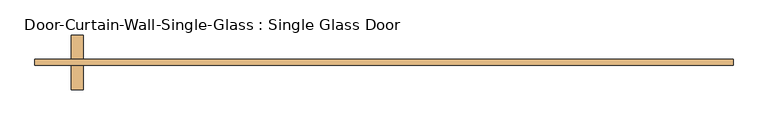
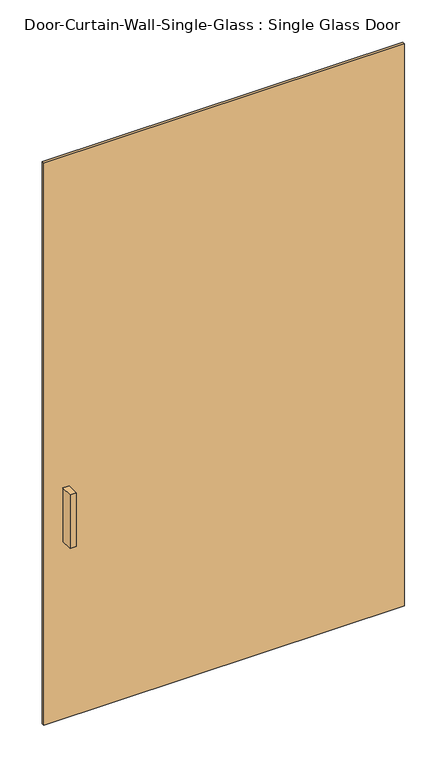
"""IFC4 building model written with IfcOpenShell, lengths in millimetres: door geometry, Door-Curtain-Wall-Single-Glass : Single Glass Door."""

from ifc_helpers import new_model, si_unit, frame, origin, origin_with_axes, place, context, project, spatial, polyline, outline, extrude, source, transform, mapped, element, save


def door_curtain_wall_single_glass_single_glass_door_636c359d(model_context):
    return source(origin(), model_context, "Body", "SweptSolid", [
        extrude(outline(polyline([(730.25, -50.8), (-730.25, -50.8), (-730.25, -38.1), (730.25, -38.1), (730.25, -50.8)])), origin_with_axes(), (0.0, 0.0, 1.0), 2406.65),
        extrude(outline(polyline([(-628.65, 12.7), (-628.65, -38.1), (-654.05, -38.1), (-654.05, 12.7), (-628.65, 12.7)])), frame((0.0, 0.0, 762.0), z_axis=(0.0, 0.0, 1.0), x_axis=(1.0, 0.0, 0.0)), (0.0, 0.0, 1.0), 228.6),
        extrude(outline(polyline([(-654.05, -101.6), (-654.05, -50.8), (-628.65, -50.8), (-628.65, -101.6), (-654.05, -101.6)])), frame((0.0, 0.0, 762.0), z_axis=(0.0, 0.0, 1.0), x_axis=(1.0, 0.0, 0.0)), (0.0, 0.0, 1.0), 228.6),
    ])


if __name__ == "__main__":
    model = new_model("IFC4")
    model_context = context("Model", 3, world=origin())
    ifc_project = project(units=[si_unit("LENGTHUNIT", "METRE", prefix="MILLI")], contexts=[model_context])
    site = spatial("IfcSite", under=ifc_project)
    building = spatial("IfcBuilding", under=site)
    placement = place(None, origin())
    door_curtain_wall_single_glass_single_glass_door_shape = door_curtain_wall_single_glass_single_glass_door_636c359d(model_context)
    element("IfcDoor", 1, ObjectType="Door-Curtain-Wall-Single-Glass : Single Glass Door", at=placement, inside=building, context=model_context, shape_type="MappedRepresentation", body=[
        mapped(door_curtain_wall_single_glass_single_glass_door_shape, transform((0.0, 0.0, 0.0), x_axis=(1.0, 0.0, 0.0), y_axis=(0.0, 1.0, 0.0), z_axis=(0.0, 0.0, 1.0))),
    ])
    save(model, "model.ifc")
